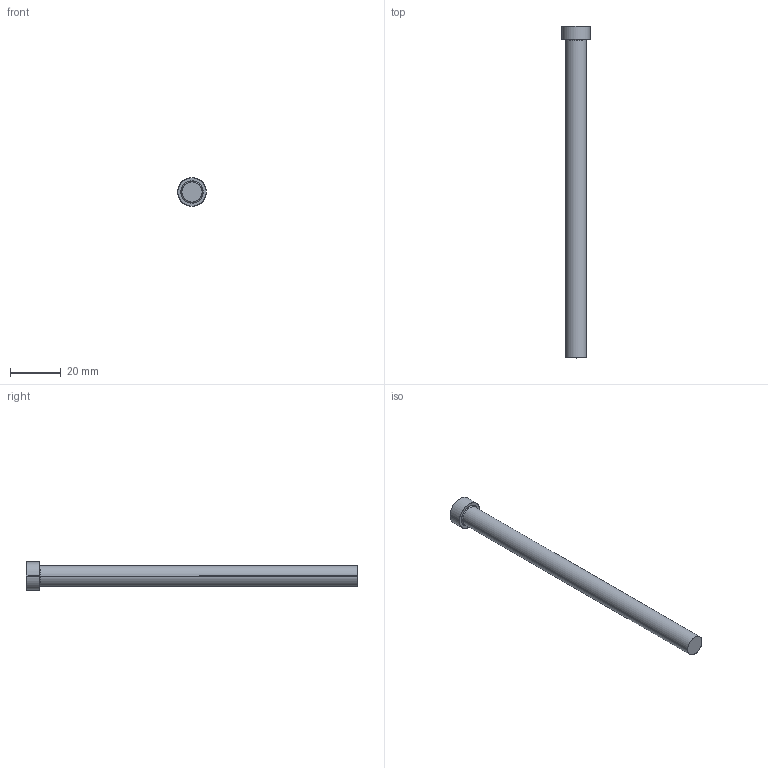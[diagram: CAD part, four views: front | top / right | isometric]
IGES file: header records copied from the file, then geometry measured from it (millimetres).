
Start section: SolidWorks IGES file using analytic representation for surfaces
Global section: file name: D:\Cleonir_arquivos\MT_15_07\Punções de Corte tipo E DIN 9861\PNE08,0130.igs; native system: SolidWorks 2013; preprocessor: SolidWorks 2013; author: Cleonir; date: 130731.214805; units: millimetre
Bounding box: 11.2 x 130.5 x 11.2 mm (x, y, z)
Surface area: 3525.2 mm2 (no closed solid volume)
Topology: 0 solids, 0 shells, 296 faces, 2273 edges, 2273 vertices
Faces by surface type: bspline 284, revolution 12
